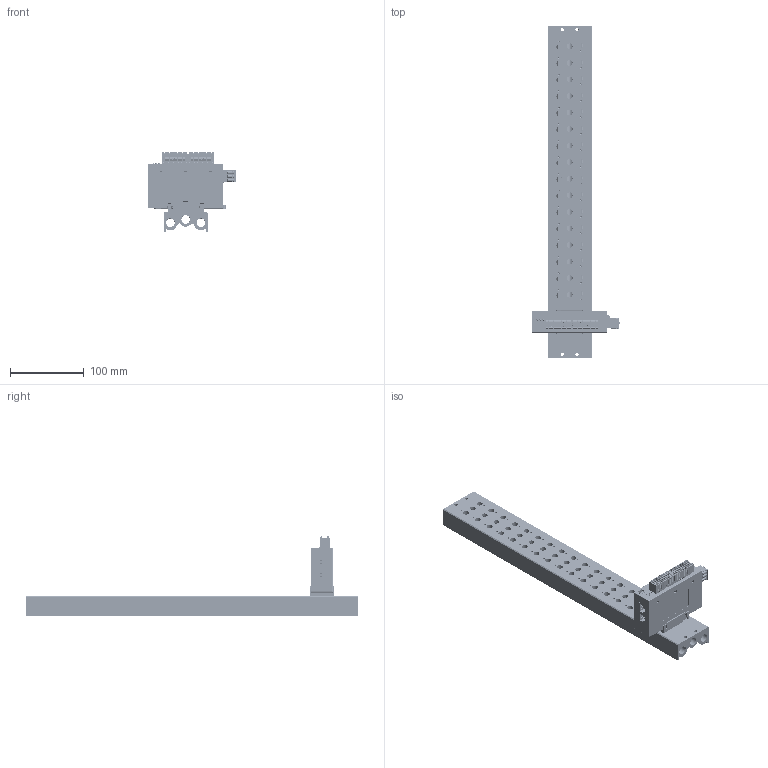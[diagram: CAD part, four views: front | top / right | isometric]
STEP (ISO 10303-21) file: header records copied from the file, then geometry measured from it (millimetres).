
FILE_DESCRIPTION(/* description */ (''),/* implementation_level */ '2;1');
FILE_NAME(/* name */ '',/* time_stamp */ '2025-10-09T15:28:22+08:00',/* author */ (''),/* organization */ (''),/* preprocessor_version */ 'ST-DEVELOPER v14',/* originating_system */ 'SIEMENS PLM Software NX 8.0',/* authorisation */ '');
FILE_SCHEMA (('AP203_CONFIGURATION_CONTROLLED_3D_DESIGN_OF_MECHANICAL_PARTS_AND_ASSEMBLIES_MIM_LF { 1 0 10303 403 2 1 2}'));
Products named in the file (1): DELL3E5857E9ub5e
Bounding box: 119.8 x 451 x 108.48 mm (x, y, z)
Volume: 603969 mm3; surface area: 204243.4 mm2
Topology: 2 solids, 228 shells, 10022 faces, 26574 edges, 17305 vertices
Faces by surface type: plane 6499, cylinder 2317, torus 336, bspline 336, cone 254, extrusion 185, sphere 95
Full cylindrical faces by diameter (mm): 0.18 x2, 2.5 x37, 3.05 x40, 3.3 x3, 3.5 x4, 4 x4, 4.5 x4, 6 x4, 8 x48, 9.6 x1, 11.492 x1, 11.5 x5, 11.8 x6
Entity records: 330881 total; most frequent: CARTESIAN_POINT 84890, ORIENTED_EDGE 51804, DIRECTION 48910, EDGE_CURVE 25902, VECTOR 18382, LINE 18197, VERTEX_POINT 17126, AXIS2_PLACEMENT_3D 15264
